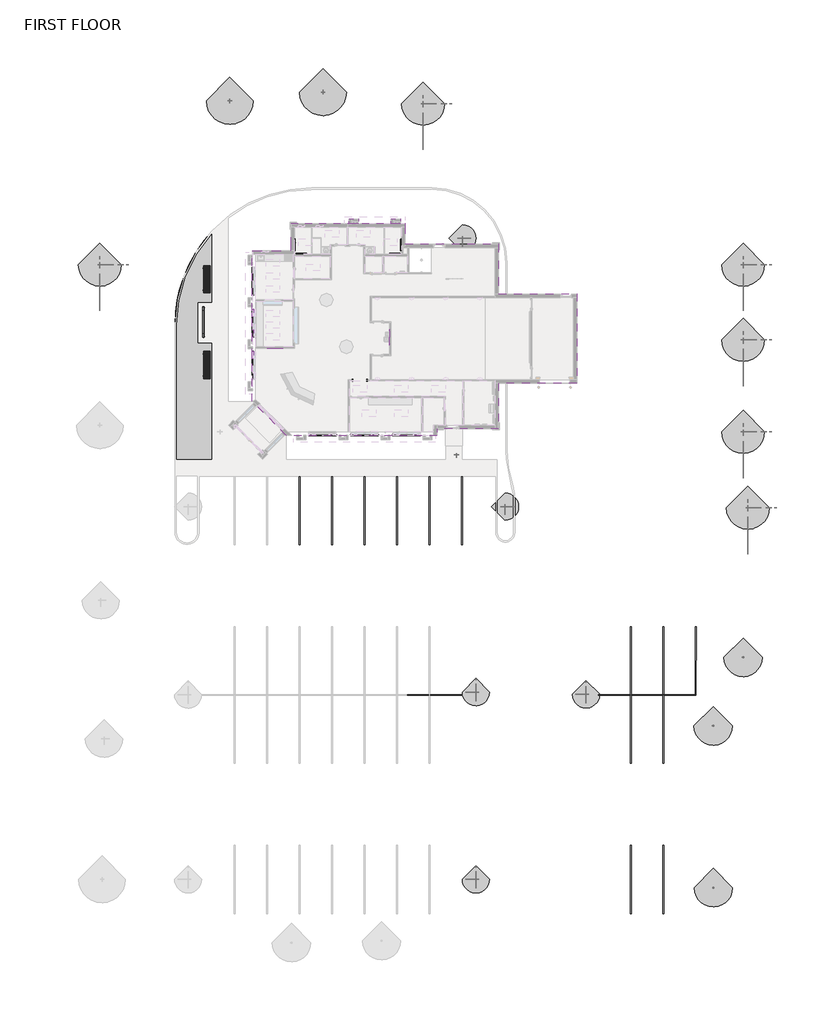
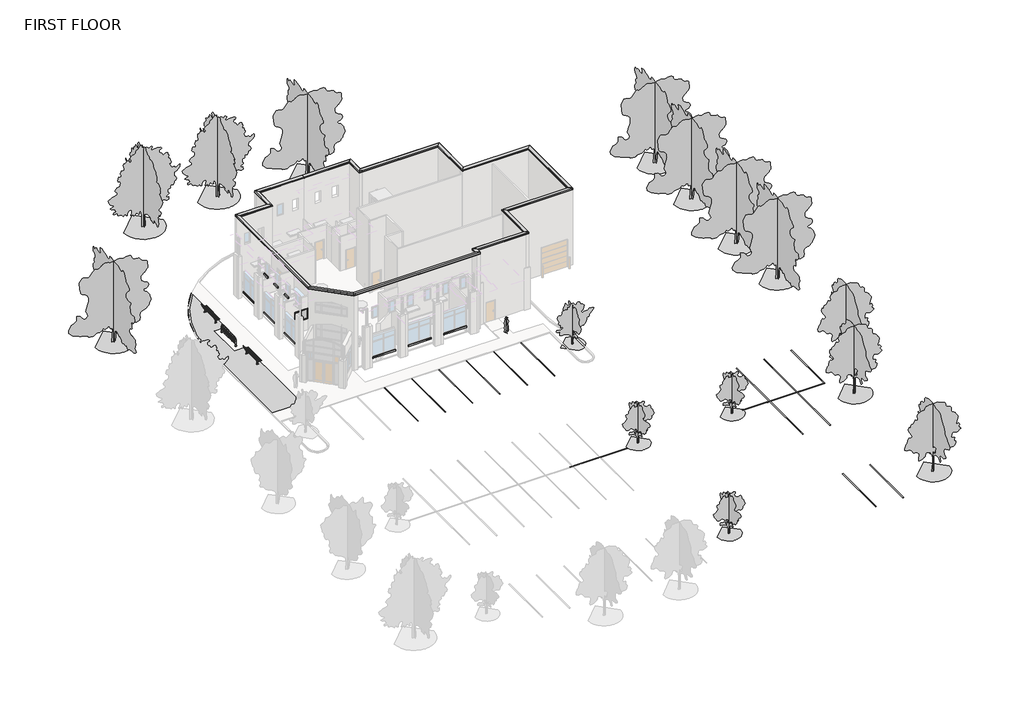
# One storey, part 7 of 7: 35 geographic elements, 19 proxies.
"""IFC4 building model written with IfcOpenShell, lengths in millimetres."""

from ifc_helpers import new_model, si_unit, origin, place, context, project, spatial, faceted_brep, triangles, transform, mapped, element, save
from components import generic_models_46b82326, grab_bar_ada_3_piece_grab_bar_ada_3_piece_215440b3, grab_bar_ada_3_piece_grab_bar_ada_3_piece_27ae340b, proxy_52898018, precast_column_cap7_precast_column_cap_b482682e, precast_column_cap8_precast_column_cap_329b37f6, rpc_female_936a91ee, proxy_52aa913c, proxy_4080196a, geographic_element_50e47716, geographic_element_83f40e2b, geographic_element_ca5cffeb, pavement_stripe_20_9c478066, pavement_stripe_20_eeeff9bc, rpc_tree_deciduous_japanese_cherry_15_e499737d, rpc_tree_deciduous_largetooth_aspen_25_f6cd7aa4, rpc_tree_deciduous_red_maple_30_cba750cc, rpc_tree_deciduous_schumard_oak_30_cf07c7db

model = new_model("IFC4")

# Units and contexts
model_context = context("Model", 3, world=origin())
ifc_project = project(units=[si_unit("LENGTHUNIT", "METRE", prefix="MILLI")], contexts=[model_context])

# Site, building, storey
site = spatial("IfcSite", under=ifc_project)
building = spatial("IfcBuilding", under=site)
storey = spatial("IfcBuildingStorey", under=building, Name="FIRST FLOOR", Elevation=30480.0)

# Proxies
placement = place(None, origin())
element("IfcBuildingElementProxy", 1, Name="Building Element Proxy", at=placement, inside=storey, context=model_context, shape_type="Tessellation", body=[
    triangles([(-20482.0358459, 11922.8001526, 30480.0), (-20482.0358459, -8391.3988449, 30480.0), (-23733.5652832, -8391.3988449, 30480.0), (-23733.1746094, 3634.1546288, 30480.0), (-23678.498877, 4787.2665115, 30480.0), (-23540.9630859, 5790.2802887, 30480.0), (-23354.2907593, 6649.721434, 30480.0), (-23120.651532, 7449.7377182, 30480.0), (-22515.4745178, 8945.1743454, 30480.0), (-21903.5141968, 10057.8244537, 30480.0), (-21459.0552795, 10724.7744415, 30480.0), (-21144.2930969, 11145.5580597, 30480.0), (-20751.3403381, 11622.4998779, 30480.0)], [[4, 6, 5], [4, 1, 7], [4, 7, 6], [8, 7, 1], [4, 3, 2], [10, 9, 1], [1, 4, 2], [9, 8, 1], [12, 11, 1], [1, 13, 12], [11, 10, 1]], closed=False),
])
generic_models_shape = generic_models_46b82326(model_context)
element("IfcBuildingElementProxy", 2, Name="Art_Piece_Van_Gogh_5866 : Art_Piece_Van_Gogh_5866", ObjectType="Art_Piece_Van_Gogh_5866 : Art_Piece_Van_Gogh_5866", at=placement, inside=storey, context=model_context, shape_type="MappedRepresentation", body=[
    mapped(generic_models_shape, transform((-14611.460253, 1582.8635405, 29683.3995774), x_axis=(-1.0, 0.0, 0.0), y_axis=(0.0, -1.0, 0.0), z_axis=(0.0, 0.0, 1.0))),
])
element("IfcBuildingElementProxy", 3, Name="Art_Piece_Van_Gogh_5866 : Art_Piece_Van_Gogh_5866", ObjectType="Art_Piece_Van_Gogh_5866 : Art_Piece_Van_Gogh_5866", at=placement, inside=storey, context=model_context, shape_type="MappedRepresentation", body=[
    mapped(generic_models_shape, transform((-4502.260253, 2298.8260405, 30480.0), x_axis=(0.0, 1.0, 0.0), y_axis=(-1.0, 0.0, 0.0), z_axis=(0.0, 0.0, 1.0))),
])
element("IfcBuildingElementProxy", 4, Name="Coping", ObjectType="Coping", at=placement, inside=storey, context=model_context, shape_type="Brep", body=[
    faceted_brep([(-358.885253, -5654.5489595, 38900.1), (-348.0261135, -5665.408099, 38870.2647593), (-350.5032676, -5662.9309449, 38867.7876052), (-362.060253, -5651.3739595, 38899.5401618), (-362.060253, -5651.3739595, 39051.3127216), (-666.860253, -5346.5739595, 39019.2285111), (-666.860253, -5346.5739595, 38899.5401618), (-677.9108685, -5335.523344, 38869.1788453), (-680.3880226, -5333.0461899, 38871.6559994), (-670.035253, -5343.3989595, 38900.1), (-670.035253, -5343.3989595, 39022.0868421), (-358.885253, -5654.5489595, 39054.8394737), (-358.885253, -6264.1489595, 38900.1), (-358.885253, -6264.1489595, 39054.8394737), (-670.035253, -5952.9989595, 39022.0868421), (-670.035253, -5952.9989595, 38900.1), (-680.3880226, -5942.6461899, 38871.6559994), (-677.9108685, -5945.123344, 38869.1788453), (-666.860253, -5956.1739595, 38899.5401618), (-666.860253, -5956.1739595, 39019.2285111), (-362.060253, -6260.9739595, 39051.3127216), (-362.060253, -6260.9739595, 38899.5401618), (-350.5032676, -6272.5309449, 38867.7876052), (-348.0261135, -6275.008099, 38870.2647593)], [[[0, 1, 2, 3, 4, 5, 6, 7, 8, 9, 10, 11]], [[12, 13, 14, 15, 16, 17, 18, 19, 20, 21, 22, 23]], [[1, 0, 12, 23]], [[2, 1, 23, 22]], [[3, 2, 22, 21]], [[4, 3, 21, 20]], [[5, 4, 20, 19]], [[6, 5, 19, 18]], [[7, 6, 18, 17]], [[8, 7, 17, 16]], [[9, 8, 16, 15]], [[10, 9, 15, 14]], [[11, 10, 14, 13]], [[0, 11, 13, 12]]]),
    faceted_brep([(5127.514747, -5654.5489595, 38900.1), (5138.3738865, -5665.408099, 38870.2647593), (5135.8967324, -5662.9309449, 38867.7876052), (5124.339747, -5651.3739595, 38899.5401618), (5124.339747, -5651.3739595, 39051.3127216), (4819.539747, -5346.5739595, 39019.2285111), (4819.539747, -5346.5739595, 38899.5401618), (4808.4891315, -5335.523344, 38869.1788453), (4806.0119774, -5333.0461899, 38871.6559994), (4816.364747, -5343.3989595, 38900.1), (4816.364747, -5343.3989595, 39022.0868421), (5127.514747, -5654.5489595, 39054.8394737), (-358.885253, -5654.5489595, 38900.1), (-358.885253, -5654.5489595, 39054.8394737), (-670.035253, -5343.3989595, 39022.0868421), (-670.035253, -5343.3989595, 38900.1), (-680.3880226, -5333.0461899, 38871.6559994), (-677.9108685, -5335.523344, 38869.1788453), (-666.860253, -5346.5739595, 38899.5401618), (-666.860253, -5346.5739595, 39019.2285111), (-362.060253, -5651.3739595, 39051.3127216), (-362.060253, -5651.3739595, 38899.5401618), (-350.5032676, -5662.9309449, 38867.7876052), (-348.0261135, -5665.408099, 38870.2647593)], [[[0, 1, 2, 3, 4, 5, 6, 7, 8, 9, 10, 11]], [[12, 13, 14, 15, 16, 17, 18, 19, 20, 21, 22, 23]], [[1, 0, 12, 23]], [[2, 1, 23, 22]], [[3, 2, 22, 21]], [[4, 3, 21, 20]], [[5, 4, 20, 19]], [[6, 5, 19, 18]], [[7, 6, 18, 17]], [[8, 7, 17, 16]], [[9, 8, 16, 15]], [[10, 9, 15, 14]], [[11, 10, 14, 13]], [[0, 11, 13, 12]]]),
    faceted_brep([(5127.514747, -1590.5489595, 38900.1), (5138.3738865, -1601.408099, 38870.2647593), (5135.8967324, -1598.9309449, 38867.7876052), (5124.339747, -1587.3739595, 38899.5401618), (5124.339747, -1587.3739595, 39051.3127216), (4819.539747, -1282.5739595, 39019.2285111), (4819.539747, -1282.5739595, 38899.5401618), (4808.4891315, -1271.523344, 38869.1788453), (4806.0119774, -1269.0461899, 38871.6559994), (4816.364747, -1279.3989595, 38900.1), (4816.364747, -1279.3989595, 39022.0868421), (5127.514747, -1590.5489595, 39054.8394737), (5127.514747, -5654.5489595, 38900.1), (5127.514747, -5654.5489595, 39054.8394737), (4816.364747, -5343.3989595, 39022.0868421), (4816.364747, -5343.3989595, 38900.1), (4806.0119774, -5333.0461899, 38871.6559994), (4808.4891315, -5335.523344, 38869.1788453), (4819.539747, -5346.5739595, 38899.5401618), (4819.539747, -5346.5739595, 39019.2285111), (5124.339747, -5651.3739595, 39051.3127216), (5124.339747, -5651.3739595, 38899.5401618), (5135.8967324, -5662.9309449, 38867.7876052), (5138.3738865, -5665.408099, 38870.2647593)], [[[0, 1, 2, 3, 4, 5, 6, 7, 8, 9, 10, 11]], [[12, 13, 14, 15, 16, 17, 18, 19, 20, 21, 22, 23]], [[1, 0, 12, 23]], [[2, 1, 23, 22]], [[3, 2, 22, 21]], [[4, 3, 21, 20]], [[5, 4, 20, 19]], [[6, 5, 19, 18]], [[7, 6, 18, 17]], [[8, 7, 17, 16]], [[9, 8, 16, 15]], [[10, 9, 15, 14]], [[11, 10, 14, 13]], [[0, 11, 13, 12]]]),
    faceted_brep([(12137.914747, -1590.5489595, 38900.1), (12148.7738865, -1601.408099, 38870.2647593), (12146.2967324, -1598.9309449, 38867.7876052), (12134.739747, -1587.3739595, 38899.5401618), (12134.739747, -1587.3739595, 39051.3127216), (11829.939747, -1282.5739595, 39019.2285111), (11829.939747, -1282.5739595, 38899.5401618), (11818.8891315, -1271.523344, 38869.1788453), (11816.4119774, -1269.0461899, 38871.6559994), (11826.764747, -1279.3989595, 38900.1), (11826.764747, -1279.3989595, 39022.0868421), (12137.914747, -1590.5489595, 39054.8394737), (5127.514747, -1590.5489595, 38900.1), (5127.514747, -1590.5489595, 39054.8394737), (4816.364747, -1279.3989595, 39022.0868421), (4816.364747, -1279.3989595, 38900.1), (4806.0119774, -1269.0461899, 38871.6559994), (4808.4891315, -1271.523344, 38869.1788453), (4819.539747, -1282.5739595, 38899.5401618), (4819.539747, -1282.5739595, 39019.2285111), (5124.339747, -1587.3739595, 39051.3127216), (5124.339747, -1587.3739595, 38899.5401618), (5135.8967324, -1598.9309449, 38867.7876052), (5138.3738865, -1601.408099, 38870.2647593)], [[[0, 1, 2, 3, 4, 5, 6, 7, 8, 9, 10, 11]], [[12, 13, 14, 15, 16, 17, 18, 19, 20, 21, 22, 23]], [[1, 0, 12, 23]], [[2, 1, 23, 22]], [[3, 2, 22, 21]], [[4, 3, 21, 20]], [[5, 4, 20, 19]], [[6, 5, 19, 18]], [[7, 6, 18, 17]], [[8, 7, 17, 16]], [[9, 8, 16, 15]], [[10, 9, 15, 14]], [[11, 10, 14, 13]], [[0, 11, 13, 12]]]),
    faceted_brep([(12137.914747, 6346.9510405, 38900.1), (12148.7738865, 6357.8101801, 38870.2647593), (12146.2967324, 6355.333026, 38867.7876052), (12134.739747, 6343.7760405, 38899.5401618), (12134.739747, 6343.7760405, 39051.3127216), (11829.939747, 6038.9760405, 39019.2285111), (11829.939747, 6038.9760405, 38899.5401618), (11818.8891315, 6027.9254251, 38869.1788453), (11816.4119774, 6025.448271, 38871.6559994), (11826.764747, 6035.8010405, 38900.1), (11826.764747, 6035.8010405, 39022.0868421), (12137.914747, 6346.9510405, 39054.8394737), (12137.914747, -1590.5489595, 38900.1), (12137.914747, -1590.5489595, 39054.8394737), (11826.764747, -1279.3989595, 39022.0868421), (11826.764747, -1279.3989595, 38900.1), (11816.4119774, -1269.0461899, 38871.6559994), (11818.8891315, -1271.523344, 38869.1788453), (11829.939747, -1282.5739595, 38899.5401618), (11829.939747, -1282.5739595, 39019.2285111), (12134.739747, -1587.3739595, 39051.3127216), (12134.739747, -1587.3739595, 38899.5401618), (12146.2967324, -1598.9309449, 38867.7876052), (12148.7738865, -1601.408099, 38870.2647593)], [[[0, 1, 2, 3, 4, 5, 6, 7, 8, 9, 10, 11]], [[12, 13, 14, 15, 16, 17, 18, 19, 20, 21, 22, 23]], [[1, 0, 12, 23]], [[2, 1, 23, 22]], [[3, 2, 22, 21]], [[4, 3, 21, 20]], [[5, 4, 20, 19]], [[6, 5, 19, 18]], [[7, 6, 18, 17]], [[8, 7, 17, 16]], [[9, 8, 16, 15]], [[10, 9, 15, 14]], [[11, 10, 14, 13]], [[0, 11, 13, 12]]]),
    faceted_brep([(-13779.0655091, -6264.1489595, 38900.1), (-13783.563512, -6275.008099, 38870.2647593), (-13782.5374412, -6272.5309449, 38867.7876052), (-13777.7503811, -6260.9739595, 38899.5401618), (-13777.7503811, -6260.9739595, 39051.3127216), (-13651.4980873, -5956.1739595, 39019.2285111), (-13651.4980873, -5956.1739595, 38899.5401618), (-13646.9207725, -5945.123344, 38869.1788453), (-13645.8947017, -5942.6461899, 38871.6559994), (-13650.1829592, -5952.9989595, 38900.1), (-13650.1829592, -5952.9989595, 39022.0868421), (-13779.0655091, -6264.1489595, 39054.8394737), (-16830.785253, -3212.4292156, 38900.1), (-16830.785253, -3212.4292156, 39054.8394737), (-16519.635253, -3083.5466657, 39022.0868421), (-16519.635253, -3083.5466657, 38900.1), (-16509.2824835, -3079.2584081, 38871.6559994), (-16511.7596375, -3080.2844789, 38869.1788453), (-16522.810253, -3084.8617937, 38899.5401618), (-16522.810253, -3084.8617937, 39019.2285111), (-16827.610253, -3211.1140875, 39051.3127216), (-16827.610253, -3211.1140875, 38899.5401618), (-16839.1672385, -3215.9011477, 38867.7876052), (-16841.6443926, -3216.9272185, 38870.2647593)], [[[0, 1, 2, 3, 4, 5, 6, 7, 8, 9, 10, 11]], [[12, 13, 14, 15, 16, 17, 18, 19, 20, 21, 22, 23]], [[1, 0, 12, 23]], [[2, 1, 23, 22]], [[3, 2, 22, 21]], [[4, 3, 21, 20]], [[5, 4, 20, 19]], [[6, 5, 19, 18]], [[7, 6, 18, 17]], [[8, 7, 17, 16]], [[9, 8, 16, 15]], [[10, 9, 15, 14]], [[11, 10, 14, 13]], [[0, 11, 13, 12]]]),
    faceted_brep([(-16830.785253, -3212.4292156, 38900.1), (-16841.6443926, -3216.9272185, 38870.2647593), (-16839.1672385, -3215.9011477, 38867.7876052), (-16827.610253, -3211.1140875, 38899.5401618), (-16827.610253, -3211.1140875, 39051.3127216), (-16522.810253, -3084.8617937, 39019.2285111), (-16522.810253, -3084.8617937, 38899.5401618), (-16511.7596375, -3080.2844789, 38869.1788453), (-16509.2824835, -3079.2584081, 38871.6559994), (-16519.635253, -3083.5466657, 38900.1), (-16519.635253, -3083.5466657, 39022.0868421), (-16830.785253, -3212.4292156, 39054.8394737), (-16830.785253, 10207.7510405, 38900.1), (-16830.785253, 10207.7510405, 39054.8394737), (-16519.635253, 9896.6010405, 39022.0868421), (-16519.635253, 9896.6010405, 38900.1), (-16509.2824835, 9886.248271, 38871.6559994), (-16511.7596375, 9888.7254251, 38869.1788453), (-16522.810253, 9899.7760405, 38899.5401618), (-16522.810253, 9899.7760405, 39019.2285111), (-16827.610253, 10204.5760405, 39051.3127216), (-16827.610253, 10204.5760405, 38899.5401618), (-16839.1672385, 10216.133026, 38867.7876052), (-16841.6443926, 10218.6101801, 38870.2647593)], [[[0, 1, 2, 3, 4, 5, 6, 7, 8, 9, 10, 11]], [[12, 13, 14, 15, 16, 17, 18, 19, 20, 21, 22, 23]], [[1, 0, 12, 23]], [[2, 1, 23, 22]], [[3, 2, 22, 21]], [[4, 3, 21, 20]], [[5, 4, 20, 19]], [[6, 5, 19, 18]], [[7, 6, 18, 17]], [[8, 7, 17, 16]], [[9, 8, 16, 15]], [[10, 9, 15, 14]], [[11, 10, 14, 13]], [[0, 11, 13, 12]]]),
    faceted_brep([(-16830.785253, 10207.7510405, 38900.1), (-16841.6443926, 10218.6101801, 38870.2647593), (-16839.1672385, 10216.133026, 38867.7876052), (-16827.610253, 10204.5760405, 38899.5401618), (-16827.610253, 10204.5760405, 39051.3127216), (-16522.810253, 9899.7760405, 39019.2285111), (-16522.810253, 9899.7760405, 38899.5401618), (-16511.7596375, 9888.7254251, 38869.1788453), (-16509.2824835, 9886.248271, 38871.6559994), (-16519.635253, 9896.6010405, 38900.1), (-16519.635253, 9896.6010405, 39022.0868421), (-16830.785253, 10207.7510405, 39054.8394737), (-13376.385253, 10207.7510405, 38900.1), (-13376.385253, 10207.7510405, 39054.8394737), (-13065.235253, 9896.6010405, 39022.0868421), (-13065.235253, 9896.6010405, 38900.1), (-13054.8824835, 9886.248271, 38871.6559994), (-13057.3596375, 9888.7254251, 38869.1788453), (-13068.410253, 9899.7760405, 38899.5401618), (-13068.410253, 9899.7760405, 39019.2285111), (-13373.210253, 10204.5760405, 39051.3127216), (-13373.210253, 10204.5760405, 38899.5401618), (-13384.7672385, 10216.133026, 38867.7876052), (-13387.2443926, 10218.6101801, 38870.2647593)], [[[0, 1, 2, 3, 4, 5, 6, 7, 8, 9, 10, 11]], [[12, 13, 14, 15, 16, 17, 18, 19, 20, 21, 22, 23]], [[1, 0, 12, 23]], [[2, 1, 23, 22]], [[3, 2, 22, 21]], [[4, 3, 21, 20]], [[5, 4, 20, 19]], [[6, 5, 19, 18]], [[7, 6, 18, 17]], [[8, 7, 17, 16]], [[9, 8, 16, 15]], [[10, 9, 15, 14]], [[11, 10, 14, 13]], [[0, 11, 13, 12]]]),
    faceted_brep([(-13376.385253, 10207.7510405, 38900.1), (-13387.2443926, 10218.6101801, 38870.2647593), (-13384.7672385, 10216.133026, 38867.7876052), (-13373.210253, 10204.5760405, 38899.5401618), (-13373.210253, 10204.5760405, 39051.3127216), (-13068.410253, 9899.7760405, 39019.2285111), (-13068.410253, 9899.7760405, 38899.5401618), (-13057.3596375, 9888.7254251, 38869.1788453), (-13054.8824835, 9886.248271, 38871.6559994), (-13065.235253, 9896.6010405, 38900.1), (-13065.235253, 9896.6010405, 39022.0868421), (-13376.385253, 10207.7510405, 39054.8394737), (-13376.385253, 12646.1510405, 38900.1), (-13376.385253, 12646.1510405, 39054.8394737), (-13065.235253, 12335.0010405, 39022.0868421), (-13065.235253, 12335.0010405, 38900.1), (-13054.8824835, 12324.648271, 38871.6559994), (-13057.3596375, 12327.1254251, 38869.1788453), (-13068.410253, 12338.1760405, 38899.5401618), (-13068.410253, 12338.1760405, 39019.2285111), (-13373.210253, 12642.9760405, 39051.3127216), (-13373.210253, 12642.9760405, 38899.5401618), (-13384.7672385, 12654.533026, 38867.7876052), (-13387.2443926, 12657.0101801, 38870.2647593)], [[[0, 1, 2, 3, 4, 5, 6, 7, 8, 9, 10, 11]], [[12, 13, 14, 15, 16, 17, 18, 19, 20, 21, 22, 23]], [[1, 0, 12, 23]], [[2, 1, 23, 22]], [[3, 2, 22, 21]], [[4, 3, 21, 20]], [[5, 4, 20, 19]], [[6, 5, 19, 18]], [[7, 6, 18, 17]], [[8, 7, 17, 16]], [[9, 8, 16, 15]], [[10, 9, 15, 14]], [[11, 10, 14, 13]], [[0, 11, 13, 12]]]),
    faceted_brep([(-13376.385253, 12646.1510405, 38900.1), (-13387.2443926, 12657.0101801, 38870.2647593), (-13384.7672385, 12654.533026, 38867.7876052), (-13373.210253, 12642.9760405, 38899.5401618), (-13373.210253, 12642.9760405, 39051.3127216), (-13068.410253, 12338.1760405, 39019.2285111), (-13068.410253, 12338.1760405, 38899.5401618), (-13057.3596375, 12327.1254251, 38869.1788453), (-13054.8824835, 12324.648271, 38871.6559994), (-13065.235253, 12335.0010405, 38900.1), (-13065.235253, 12335.0010405, 39022.0868421), (-13376.385253, 12646.1510405, 39054.8394737), (-8332.897753, 12646.1510405, 38900.1), (-8332.897753, 12646.1510405, 39054.8394737), (-8332.897753, 12335.0010405, 39022.0868421), (-8332.897753, 12335.0010405, 38900.1), (-8332.897753, 12324.648271, 38871.6559994), (-8332.897753, 12327.1254251, 38869.1788453), (-8332.897753, 12338.1760405, 38899.5401618), (-8332.897753, 12338.1760405, 39019.2285111), (-8332.897753, 12642.9760405, 39051.3127216), (-8332.897753, 12642.9760405, 38899.5401618), (-8332.897753, 12654.533026, 38867.7876052), (-8332.897753, 12657.0101801, 38870.2647593)], [[[0, 1, 2, 3, 4, 5, 6, 7, 8, 9, 10, 11]], [[12, 13, 14, 15, 16, 17, 18, 19, 20, 21, 22, 23]], [[1, 0, 12, 23]], [[2, 1, 23, 22]], [[3, 2, 22, 21]], [[4, 3, 21, 20]], [[5, 4, 20, 19]], [[6, 5, 19, 18]], [[7, 6, 18, 17]], [[8, 7, 17, 16]], [[9, 8, 16, 15]], [[10, 9, 15, 14]], [[11, 10, 14, 13]], [[0, 11, 13, 12]]]),
    faceted_brep([(-8332.897753, 12646.1510405, 38900.1), (-8332.897753, 12657.0101801, 38870.2647593), (-8332.897753, 12654.533026, 38867.7876052), (-8332.897753, 12642.9760405, 38899.5401618), (-8332.897753, 12642.9760405, 39051.3127216), (-8332.897753, 12338.1760405, 39019.2285111), (-8332.897753, 12338.1760405, 38899.5401618), (-8332.897753, 12327.1254251, 38869.1788453), (-8332.897753, 12324.648271, 38871.6559994), (-8332.897753, 12335.0010405, 38900.1), (-8332.897753, 12335.0010405, 39022.0868421), (-8332.897753, 12646.1510405, 39054.8394737), (-3203.685253, 12646.1510405, 38900.1), (-3203.685253, 12646.1510405, 39054.8394737), (-3514.835253, 12335.0010405, 39022.0868421), (-3514.835253, 12335.0010405, 38900.1), (-3525.1880226, 12324.648271, 38871.6559994), (-3522.7108685, 12327.1254251, 38869.1788453), (-3511.660253, 12338.1760405, 38899.5401618), (-3511.660253, 12338.1760405, 39019.2285111), (-3206.860253, 12642.9760405, 39051.3127216), (-3206.860253, 12642.9760405, 38899.5401618), (-3195.3032676, 12654.533026, 38867.7876052), (-3192.8261135, 12657.0101801, 38870.2647593)], [[[0, 1, 2, 3, 4, 5, 6, 7, 8, 9, 10, 11]], [[12, 13, 14, 15, 16, 17, 18, 19, 20, 21, 22, 23]], [[1, 0, 12, 23]], [[2, 1, 23, 22]], [[3, 2, 22, 21]], [[4, 3, 21, 20]], [[5, 4, 20, 19]], [[6, 5, 19, 18]], [[7, 6, 18, 17]], [[8, 7, 17, 16]], [[9, 8, 16, 15]], [[10, 9, 15, 14]], [[11, 10, 14, 13]], [[0, 11, 13, 12]]]),
    faceted_brep([(-3203.685253, 10817.3510405, 38900.1), (-3203.685253, 10817.3510405, 39054.8394737), (-3514.835253, 10506.2010405, 39022.0868421), (-3514.835253, 10506.2010405, 38900.1), (-3525.1880226, 10495.848271, 38871.6559994), (-3522.7108685, 10498.3254251, 38869.1788453), (-3511.660253, 10509.3760405, 38899.5401618), (-3511.660253, 10509.3760405, 39019.2285111), (-3206.860253, 10814.1760405, 39051.3127216), (-3206.860253, 10814.1760405, 38899.5401618), (-3195.3032676, 10825.733026, 38867.7876052), (-3192.8261135, 10828.2101801, 38870.2647593), (-3203.685253, 12646.1510405, 38900.1), (-3192.8261135, 12657.0101801, 38870.2647593), (-3195.3032676, 12654.533026, 38867.7876052), (-3206.860253, 12642.9760405, 38899.5401618), (-3206.860253, 12642.9760405, 39051.3127216), (-3511.660253, 12338.1760405, 39019.2285111), (-3511.660253, 12338.1760405, 38899.5401618), (-3522.7108685, 12327.1254251, 38869.1788453), (-3525.1880226, 12324.648271, 38871.6559994), (-3514.835253, 12335.0010405, 38900.1), (-3514.835253, 12335.0010405, 39022.0868421), (-3203.685253, 12646.1510405, 39054.8394737)], [[[0, 1, 2, 3, 4, 5, 6, 7, 8, 9, 10, 11]], [[12, 13, 14, 15, 16, 17, 18, 19, 20, 21, 22, 23]], [[1, 0, 12, 23]], [[2, 1, 23, 22]], [[3, 2, 22, 21]], [[4, 3, 21, 20]], [[5, 4, 20, 19]], [[6, 5, 19, 18]], [[7, 6, 18, 17]], [[8, 7, 17, 16]], [[9, 8, 16, 15]], [[10, 9, 15, 14]], [[11, 10, 14, 13]], [[0, 11, 13, 12]]]),
    faceted_brep([(-3203.685253, 10817.3510405, 38900.1), (-3192.8261135, 10828.2101801, 38870.2647593), (-3195.3032676, 10825.733026, 38867.7876052), (-3206.860253, 10814.1760405, 38899.5401618), (-3206.860253, 10814.1760405, 39051.3127216), (-3511.660253, 10509.3760405, 39019.2285111), (-3511.660253, 10509.3760405, 38899.5401618), (-3522.7108685, 10498.3254251, 38869.1788453), (-3525.1880226, 10495.848271, 38871.6559994), (-3514.835253, 10506.2010405, 38900.1), (-3514.835253, 10506.2010405, 39022.0868421), (-3203.685253, 10817.3510405, 39054.8394737), (5127.514747, 10817.3510405, 38900.1), (5127.514747, 10817.3510405, 39054.8394737), (4816.364747, 10506.2010405, 39022.0868421), (4816.364747, 10506.2010405, 38900.1), (4806.0119774, 10495.848271, 38871.6559994), (4808.4891315, 10498.3254251, 38869.1788453), (4819.539747, 10509.3760405, 38899.5401618), (4819.539747, 10509.3760405, 39019.2285111), (5124.339747, 10814.1760405, 39051.3127216), (5124.339747, 10814.1760405, 38899.5401618), (5135.8967324, 10825.733026, 38867.7876052), (5138.3738865, 10828.2101801, 38870.2647593)], [[[0, 1, 2, 3, 4, 5, 6, 7, 8, 9, 10, 11]], [[12, 13, 14, 15, 16, 17, 18, 19, 20, 21, 22, 23]], [[1, 0, 12, 23]], [[2, 1, 23, 22]], [[3, 2, 22, 21]], [[4, 3, 21, 20]], [[5, 4, 20, 19]], [[6, 5, 19, 18]], [[7, 6, 18, 17]], [[8, 7, 17, 16]], [[9, 8, 16, 15]], [[10, 9, 15, 14]], [[11, 10, 14, 13]], [[0, 11, 13, 12]]]),
    faceted_brep([(5127.514747, 10817.3510405, 38900.1), (5138.3738865, 10828.2101801, 38870.2647593), (5135.8967324, 10825.733026, 38867.7876052), (5124.339747, 10814.1760405, 38899.5401618), (5124.339747, 10814.1760405, 39051.3127216), (4819.539747, 10509.3760405, 39019.2285111), (4819.539747, 10509.3760405, 38899.5401618), (4808.4891315, 10498.3254251, 38869.1788453), (4806.0119774, 10495.848271, 38871.6559994), (4816.364747, 10506.2010405, 38900.1), (4816.364747, 10506.2010405, 39022.0868421), (5127.514747, 10817.3510405, 39054.8394737), (5127.514747, 6346.9510405, 38900.1), (5127.514747, 6346.9510405, 39054.8394737), (4816.364747, 6035.8010405, 39022.0868421), (4816.364747, 6035.8010405, 38900.1), (4806.0119774, 6025.448271, 38871.6559994), (4808.4891315, 6027.9254251, 38869.1788453), (4819.539747, 6038.9760405, 38899.5401618), (4819.539747, 6038.9760405, 39019.2285111), (5124.339747, 6343.7760405, 39051.3127216), (5124.339747, 6343.7760405, 38899.5401618), (5135.8967324, 6355.333026, 38867.7876052), (5138.3738865, 6357.8101801, 38870.2647593)], [[[0, 1, 2, 3, 4, 5, 6, 7, 8, 9, 10, 11]], [[12, 13, 14, 15, 16, 17, 18, 19, 20, 21, 22, 23]], [[1, 0, 12, 23]], [[2, 1, 23, 22]], [[3, 2, 22, 21]], [[4, 3, 21, 20]], [[5, 4, 20, 19]], [[6, 5, 19, 18]], [[7, 6, 18, 17]], [[8, 7, 17, 16]], [[9, 8, 16, 15]], [[10, 9, 15, 14]], [[11, 10, 14, 13]], [[0, 11, 13, 12]]]),
    faceted_brep([(5127.514747, 6346.9510405, 38900.1), (5138.3738865, 6357.8101801, 38870.2647593), (5135.8967324, 6355.333026, 38867.7876052), (5124.339747, 6343.7760405, 38899.5401618), (5124.339747, 6343.7760405, 39051.3127216), (4819.539747, 6038.9760405, 39019.2285111), (4819.539747, 6038.9760405, 38899.5401618), (4808.4891315, 6027.9254251, 38869.1788453), (4806.0119774, 6025.448271, 38871.6559994), (4816.364747, 6035.8010405, 38900.1), (4816.364747, 6035.8010405, 39022.0868421), (5127.514747, 6346.9510405, 39054.8394737), (12137.914747, 6346.9510405, 38900.1), (12137.914747, 6346.9510405, 39054.8394737), (11826.764747, 6035.8010405, 39022.0868421), (11826.764747, 6035.8010405, 38900.1), (11816.4119774, 6025.448271, 38871.6559994), (11818.8891315, 6027.9254251, 38869.1788453), (11829.939747, 6038.9760405, 38899.5401618), (11829.939747, 6038.9760405, 39019.2285111), (12134.739747, 6343.7760405, 39051.3127216), (12134.739747, 6343.7760405, 38899.5401618), (12146.2967324, 6355.333026, 38867.7876052), (12148.7738865, 6357.8101801, 38870.2647593)], [[[0, 1, 2, 3, 4, 5, 6, 7, 8, 9, 10, 11]], [[12, 13, 14, 15, 16, 17, 18, 19, 20, 21, 22, 23]], [[1, 0, 12, 23]], [[2, 1, 23, 22]], [[3, 2, 22, 21]], [[4, 3, 21, 20]], [[5, 4, 20, 19]], [[6, 5, 19, 18]], [[7, 6, 18, 17]], [[8, 7, 17, 16]], [[9, 8, 16, 15]], [[10, 9, 15, 14]], [[11, 10, 14, 13]], [[0, 11, 13, 12]]]),
    faceted_brep([(-13779.0655091, -6264.1489595, 38900.1), (-13779.0655091, -6264.1489595, 39054.8394737), (-13650.1829592, -5952.9989595, 39022.0868421), (-13650.1829592, -5952.9989595, 38900.1), (-13645.8947017, -5942.6461899, 38871.6559994), (-13646.9207725, -5945.123344, 38869.1788453), (-13651.4980873, -5956.1739595, 38899.5401618), (-13651.4980873, -5956.1739595, 39019.2285111), (-13777.7503811, -6260.9739595, 39051.3127216), (-13777.7503811, -6260.9739595, 38899.5401618), (-13782.5374412, -6272.5309449, 38867.7876052), (-13783.563512, -6275.008099, 38870.2647593), (-358.885253, -6264.1489595, 38900.1), (-348.0261135, -6275.008099, 38870.2647593), (-350.5032676, -6272.5309449, 38867.7876052), (-362.060253, -6260.9739595, 38899.5401618), (-362.060253, -6260.9739595, 39051.3127216), (-666.860253, -5956.1739595, 39019.2285111), (-666.860253, -5956.1739595, 38899.5401618), (-677.9108685, -5945.123344, 38869.1788453), (-680.3880226, -5942.6461899, 38871.6559994), (-670.035253, -5952.9989595, 38900.1), (-670.035253, -5952.9989595, 39022.0868421), (-358.885253, -6264.1489595, 39054.8394737)], [[[0, 1, 2, 3, 4, 5, 6, 7, 8, 9, 10, 11]], [[12, 13, 14, 15, 16, 17, 18, 19, 20, 21, 22, 23]], [[1, 0, 12, 23]], [[2, 1, 23, 22]], [[3, 2, 22, 21]], [[4, 3, 21, 20]], [[5, 4, 20, 19]], [[6, 5, 19, 18]], [[7, 6, 18, 17]], [[8, 7, 17, 16]], [[9, 8, 16, 15]], [[10, 9, 15, 14]], [[11, 10, 14, 13]], [[0, 11, 13, 12]]]),
])
grab_bar_ada_3_piece_grab_bar_ada_3_piece_shape = grab_bar_ada_3_piece_grab_bar_ada_3_piece_215440b3(model_context)
element("IfcBuildingElementProxy", 5, Name="Grab Bar ADA - 3 Piece : Grab Bar ADA - 3 Piece", ObjectType="Grab Bar ADA - 3 Piece : Grab Bar ADA - 3 Piece", at=placement, inside=storey, context=model_context, shape_type="MappedRepresentation", body=[
    mapped(grab_bar_ada_3_piece_grab_bar_ada_3_piece_shape, transform((-13065.235253, 9820.4010405, 30480.0), x_axis=(1.0, 0.0, 0.0), y_axis=(0.0, 1.0, 0.0), z_axis=(0.0, 0.0, 1.0))),
])
grab_bar_ada_3_piece_grab_bar_ada_3_piece_2_shape = grab_bar_ada_3_piece_grab_bar_ada_3_piece_27ae340b(model_context)
element("IfcBuildingElementProxy", 6, Name="Grab Bar ADA - 3 Piece : Grab Bar ADA - 3 Piece", ObjectType="Grab Bar ADA - 3 Piece : Grab Bar ADA - 3 Piece", at=placement, inside=storey, context=model_context, shape_type="MappedRepresentation", body=[
    mapped(grab_bar_ada_3_piece_grab_bar_ada_3_piece_2_shape, transform((-3511.5770356, 9820.4010405, 30480.0), x_axis=(-1.0, 0.0, 0.0), y_axis=(0.0, -1.0, 0.0), z_axis=(0.0, 0.0, 1.0))),
])
proxy_shape = proxy_52898018(model_context)
element("IfcBuildingElementProxy", 7, Name="Opening-Cased : 48\" x 84\"", ObjectType="Opening-Cased : 48\" x 84\"", at=placement, inside=storey, context=model_context, shape_type="MappedRepresentation", body=[
    mapped(proxy_shape, transform((-7222.9840963, -1341.3114595, 30480.0), x_axis=(1.0, 0.0, 0.0), y_axis=(0.0, 1.0, 0.0), z_axis=(0.0, 0.0, 1.0))),
])
precast_column_cap7_precast_column_cap_shape = precast_column_cap7_precast_column_cap_b482682e(model_context)
element("IfcBuildingElementProxy", 8, Name="Precast Column Cap7 : Precast Column Cap", ObjectType="Precast Column Cap7 : Precast Column Cap", at=placement, inside=storey, context=model_context, shape_type="MappedRepresentation", body=[
    mapped(precast_column_cap7_precast_column_cap_shape, transform((0.0, 0.0, 0.0), x_axis=(1.0, 0.0, 0.0), y_axis=(0.0, 1.0, 0.0), z_axis=(0.0, 0.0, 1.0))),
])
precast_column_cap8_precast_column_cap_shape = precast_column_cap8_precast_column_cap_329b37f6(model_context)
element("IfcBuildingElementProxy", 9, Name="Precast Column Cap8 : Precast Column Cap", ObjectType="Precast Column Cap8 : Precast Column Cap", at=placement, inside=storey, context=model_context, shape_type="MappedRepresentation", body=[
    mapped(precast_column_cap8_precast_column_cap_shape, transform((-25526.4064361, 11665.2020811, 0.0), x_axis=(-1.0, 0.0, 0.0), y_axis=(0.0, -1.0, 0.0), z_axis=(0.0, 0.0, 1.0))),
])
rpc_female_shape = rpc_female_936a91ee(model_context)
element("IfcBuildingElementProxy", 10, Name="RPC Female : Tina", ObjectType="RPC Female : Tina", at=placement, inside=storey, context=model_context, shape_type="MappedRepresentation", body=[
    mapped(rpc_female_shape, transform((1375.2585299, -8035.7989595, 30480.0), x_axis=(1.0, 0.0, 0.0), y_axis=(0.0, 1.0, 0.0), z_axis=(0.0, 0.0, 1.0))),
])
proxy_2_shape = proxy_52aa913c(model_context)
element("IfcBuildingElementProxy", 11, Name="Stone Sill : 2' x 8\" x 3 5/8\" Deep", ObjectType="Stone Sill : 2' x 8\" x 3 5/8\" Deep", at=placement, inside=storey, context=model_context, shape_type="MappedRepresentation", body=[
    mapped(proxy_2_shape, transform((-16673.80834, 4049.9858005, 33419.5320312), x_axis=(0.0, 1.0, 0.0), y_axis=(-1.0, 0.0, 0.0), z_axis=(0.0, 0.0, 1.0))),
])
element("IfcBuildingElementProxy", 12, Name="Stone Sill : 2' x 8\" x 3 5/8\" Deep", ObjectType="Stone Sill : 2' x 8\" x 3 5/8\" Deep", at=placement, inside=storey, context=model_context, shape_type="MappedRepresentation", body=[
    mapped(proxy_2_shape, transform((-16673.80834, 2221.1858005, 33419.5320312), x_axis=(0.0, 1.0, 0.0), y_axis=(-1.0, 0.0, 0.0), z_axis=(0.0, 0.0, 1.0))),
])
element("IfcBuildingElementProxy", 13, Name="Stone Sill : 2' x 8\" x 3 5/8\" Deep", ObjectType="Stone Sill : 2' x 8\" x 3 5/8\" Deep", at=placement, inside=storey, context=model_context, shape_type="MappedRepresentation", body=[
    mapped(proxy_2_shape, transform((-16673.80834, 290.7959605, 33419.5320312), x_axis=(0.0, 1.0, 0.0), y_axis=(-1.0, 0.0, 0.0), z_axis=(0.0, 0.0, 1.0))),
])
proxy_3_shape = proxy_4080196a(model_context)
element("IfcBuildingElementProxy", 14, Name="Stone Sill : 4' x 8\" x 3 5/8\" Deep", ObjectType="Stone Sill : 4' x 8\" x 3 5/8\" Deep", at=placement, inside=storey, context=model_context, shape_type="MappedRepresentation", body=[
    mapped(proxy_3_shape, transform((-16673.80834, 3135.5908805, 29101.5320313), x_axis=(0.0, 1.0, 0.0), y_axis=(-1.0, 0.0, 0.0), z_axis=(0.0, 0.0, 1.0))),
])
element("IfcBuildingElementProxy", 15, Name="Stone Sill : 4' x 8\" x 3 5/8\" Deep", ObjectType="Stone Sill : 4' x 8\" x 3 5/8\" Deep", at=placement, inside=storey, context=model_context, shape_type="MappedRepresentation", body=[
    mapped(proxy_3_shape, transform((-16673.80834, -623.5989595, 29101.5320313), x_axis=(0.0, 1.0, 0.0), y_axis=(-1.0, 0.0, 0.0), z_axis=(0.0, 0.0, 1.0))),
])
element("IfcBuildingElementProxy", 16, Name="Stone Sill : 4' x 8\" x 3 5/8\" Deep", ObjectType="Stone Sill : 4' x 8\" x 3 5/8\" Deep", at=placement, inside=storey, context=model_context, shape_type="MappedRepresentation", body=[
    mapped(proxy_3_shape, transform((-16673.80834, 6894.7807205, 29101.5320313), x_axis=(0.0, 1.0, 0.0), y_axis=(-1.0, 0.0, 0.0), z_axis=(0.0, 0.0, 1.0))),
])
element("IfcBuildingElementProxy", 17, Name="Stone Sill : 4' x 8\" x 3 5/8\" Deep", ObjectType="Stone Sill : 4' x 8\" x 3 5/8\" Deep", at=placement, inside=storey, context=model_context, shape_type="MappedRepresentation", body=[
    mapped(proxy_3_shape, transform((-9961.835253, -6107.1720464, 29100.7382813), x_axis=(-1.0, 0.0, 0.0), y_axis=(0.0, -1.0, 0.0), z_axis=(0.0, 0.0, 1.0))),
])
element("IfcBuildingElementProxy", 18, Name="Stone Sill : 4' x 8\" x 3 5/8\" Deep", ObjectType="Stone Sill : 4' x 8\" x 3 5/8\" Deep", at=placement, inside=storey, context=model_context, shape_type="MappedRepresentation", body=[
    mapped(proxy_3_shape, transform((-6202.645413, -6107.1720464, 29100.7382813), x_axis=(-1.0, 0.0, 0.0), y_axis=(0.0, -1.0, 0.0), z_axis=(0.0, 0.0, 1.0))),
])
element("IfcBuildingElementProxy", 19, Name="Stone Sill : 4' x 8\" x 3 5/8\" Deep", ObjectType="Stone Sill : 4' x 8\" x 3 5/8\" Deep", at=placement, inside=storey, context=model_context, shape_type="MappedRepresentation", body=[
    mapped(proxy_3_shape, transform((-2443.445413, -6107.1720464, 29100.7382813), x_axis=(-1.0, 0.0, 0.0), y_axis=(0.0, -1.0, 0.0), z_axis=(0.0, 0.0, 1.0))),
])

# Geographic elements
geographic_element_shape = geographic_element_50e47716(model_context)
element("IfcGeographicElement", 20, ObjectType="Bike Stand : 102\"", at=placement, inside=storey, context=model_context, shape_type="MappedRepresentation", body=[
    mapped(geographic_element_shape, transform((-21193.235253, 3367.9902117, 30480.0), x_axis=(0.0, 1.0, 0.0), y_axis=(-1.0, 0.0, 0.0), z_axis=(0.0, 0.0, 1.0))),
])
geographic_element_2_shape = geographic_element_83f40e2b(model_context)
element("IfcGeographicElement", 21, ObjectType="Park Bench : 96\"", at=placement, inside=storey, context=model_context, shape_type="MappedRepresentation", body=[
    mapped(geographic_element_2_shape, transform((-20932.885253, 22.3459605, 30480.0), x_axis=(0.0, 1.0, 0.0), y_axis=(-1.0, 0.0, 0.0), z_axis=(0.0, 0.0, 1.0))),
])
geographic_element_3_shape = geographic_element_ca5cffeb(model_context)
element("IfcGeographicElement", 22, ObjectType="Park Bench : 96\"", at=placement, inside=storey, context=model_context, shape_type="MappedRepresentation", body=[
    mapped(geographic_element_3_shape, transform((-20932.885253, 7680.4154805, 30480.0), x_axis=(0.0, -1.0, 0.0), y_axis=(1.0, 0.0, 0.0), z_axis=(0.0, 0.0, 1.0))),
])
pavement_stripe_20_shape = pavement_stripe_20_9c478066(model_context)
element("IfcGeographicElement", 23, ObjectType="Pavement Stripe : 20'", at=placement, inside=storey, context=model_context, shape_type="MappedRepresentation", body=[
    mapped(pavement_stripe_20_shape, transform((-13873.2269603, -10778.9989595, 30327.6), x_axis=(1.0, 0.0, 0.0), y_axis=(0.0, 1.0, 0.0), z_axis=(0.0, 0.0, 1.0))),
])
element("IfcGeographicElement", 24, ObjectType="Pavement Stripe : 20'", at=placement, inside=storey, context=model_context, shape_type="MappedRepresentation", body=[
    mapped(pavement_stripe_20_shape, transform((-10977.6269597, -10778.9989595, 30327.6), x_axis=(1.0, 0.0, 0.0), y_axis=(0.0, 1.0, 0.0), z_axis=(0.0, 0.0, 1.0))),
])
element("IfcGeographicElement", 25, ObjectType="Pavement Stripe : 20'", at=placement, inside=storey, context=model_context, shape_type="MappedRepresentation", body=[
    mapped(pavement_stripe_20_shape, transform((-8082.026959, -10778.9989595, 30327.6), x_axis=(1.0, 0.0, 0.0), y_axis=(0.0, 1.0, 0.0), z_axis=(0.0, 0.0, 1.0))),
])
element("IfcGeographicElement", 26, ObjectType="Pavement Stripe : 20'", at=placement, inside=storey, context=model_context, shape_type="MappedRepresentation", body=[
    mapped(pavement_stripe_20_shape, transform((-5186.4269584, -10778.9989595, 30327.6), x_axis=(1.0, 0.0, 0.0), y_axis=(0.0, 1.0, 0.0), z_axis=(0.0, 0.0, 1.0))),
])
element("IfcGeographicElement", 27, ObjectType="Pavement Stripe : 20'", at=placement, inside=storey, context=model_context, shape_type="MappedRepresentation", body=[
    mapped(pavement_stripe_20_shape, transform((-2290.8269578, -10778.9989595, 30327.6), x_axis=(1.0, 0.0, 0.0), y_axis=(0.0, 1.0, 0.0), z_axis=(0.0, 0.0, 1.0))),
])
element("IfcGeographicElement", 28, ObjectType="Pavement Stripe : 20'", at=placement, inside=storey, context=model_context, shape_type="MappedRepresentation", body=[
    mapped(pavement_stripe_20_shape, transform((604.7730429, -10778.9989595, 30327.6), x_axis=(1.0, 0.0, 0.0), y_axis=(0.0, 1.0, 0.0), z_axis=(0.0, 0.0, 1.0))),
])
element("IfcGeographicElement", 29, ObjectType="Pavement Stripe : 20'", at=placement, inside=storey, context=model_context, shape_type="MappedRepresentation", body=[
    mapped(pavement_stripe_20_shape, transform((15692.3777862, -30286.1989595, 30327.6), x_axis=(1.0, 0.0, 0.0), y_axis=(0.0, 1.0, 0.0), z_axis=(0.0, 0.0, 1.0))),
])
element("IfcGeographicElement", 30, ObjectType="Pavement Stripe : 20'", at=placement, inside=storey, context=model_context, shape_type="MappedRepresentation", body=[
    mapped(pavement_stripe_20_shape, transform((18587.9730469, -30286.1989595, 30327.6), x_axis=(1.0, 0.0, 0.0), y_axis=(0.0, 1.0, 0.0), z_axis=(0.0, 0.0, 1.0))),
])
pavement_stripe_20_2_shape = pavement_stripe_20_eeeff9bc(model_context)
element("IfcGeographicElement", 31, ObjectType="Pavement Stripe : 20'", at=placement, inside=storey, context=model_context, shape_type="MappedRepresentation", body=[
    mapped(pavement_stripe_20_2_shape, transform((1010.0784404, -30687.3718083, 30327.6), x_axis=(2.099212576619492e-05, 0.9999999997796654, 0.0), y_axis=(-0.9999999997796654, 2.099212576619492e-05, 0.0), z_axis=(0.0, 0.0, 1.0))),
])
element("IfcGeographicElement", 32, ObjectType="Pavement Stripe : 20'", at=placement, inside=storey, context=model_context, shape_type="MappedRepresentation", body=[
    mapped(pavement_stripe_20_2_shape, transform((15692.4140549, -28558.4691789, 30327.6), x_axis=(0.9999999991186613, -4.198425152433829e-05, 0.0), y_axis=(4.198425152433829e-05, 0.9999999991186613, 0.0), z_axis=(0.0, 0.0, 1.0))),
])
element("IfcGeographicElement", 33, ObjectType="Pavement Stripe : 20'", at=placement, inside=storey, context=model_context, shape_type="MappedRepresentation", body=[
    mapped(pavement_stripe_20_2_shape, transform((18588.009313, -28558.5907483, 30327.6), x_axis=(0.9999999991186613, -4.198425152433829e-05, 0.0), y_axis=(4.198425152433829e-05, 0.9999999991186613, 0.0), z_axis=(0.0, 0.0, 1.0))),
])
element("IfcGeographicElement", 34, ObjectType="Pavement Stripe : 20'", at=placement, inside=storey, context=model_context, shape_type="MappedRepresentation", body=[
    mapped(pavement_stripe_20_2_shape, transform((21483.6093111, -28558.7123179, 30327.6), x_axis=(0.9999999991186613, -4.198425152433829e-05, 0.0), y_axis=(4.198425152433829e-05, 0.9999999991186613, 0.0), z_axis=(0.0, 0.0, 1.0))),
])
element("IfcGeographicElement", 35, ObjectType="Pavement Stripe : 20'", at=placement, inside=storey, context=model_context, shape_type="MappedRepresentation", body=[
    mapped(pavement_stripe_20_2_shape, transform((19298.0784482, -30687.3718083, 30327.6), x_axis=(2.099212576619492e-05, 0.9999999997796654, 0.0), y_axis=(-0.9999999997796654, 2.099212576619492e-05, 0.0), z_axis=(0.0, 0.0, 1.0))),
])
element("IfcGeographicElement", 36, ObjectType="Pavement Stripe : 20'", at=placement, inside=storey, context=model_context, shape_type="MappedRepresentation", body=[
    mapped(pavement_stripe_20_2_shape, transform((21888.8784482, -30687.3718083, 30327.6), x_axis=(2.099212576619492e-05, 0.9999999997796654, 0.0), y_axis=(-0.9999999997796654, 2.099212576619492e-05, 0.0), z_axis=(0.0, 0.0, 1.0))),
])
element("IfcGeographicElement", 37, ObjectType="Pavement Stripe : 20'", at=placement, inside=storey, context=model_context, shape_type="MappedRepresentation", body=[
    mapped(pavement_stripe_20_2_shape, transform((15692.4140549, -48066.4113976, 30327.6), x_axis=(0.9999999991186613, -4.198425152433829e-05, 0.0), y_axis=(4.198425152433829e-05, 0.9999999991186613, 0.0), z_axis=(0.0, 0.0, 1.0))),
])
element("IfcGeographicElement", 38, ObjectType="Pavement Stripe : 20'", at=placement, inside=storey, context=model_context, shape_type="MappedRepresentation", body=[
    mapped(pavement_stripe_20_2_shape, transform((18588.009313, -48066.532967, 30327.6), x_axis=(0.9999999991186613, -4.198425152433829e-05, 0.0), y_axis=(4.198425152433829e-05, 0.9999999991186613, 0.0), z_axis=(0.0, 0.0, 1.0))),
])
rpc_tree_deciduous_japanese_cherry_15_shape = rpc_tree_deciduous_japanese_cherry_15_e499737d(model_context)
element("IfcGeographicElement", 39, ObjectType="RPC Tree - Deciduous : Japanese Cherry - 15'", at=placement, inside=storey, context=model_context, shape_type="MappedRepresentation", body=[
    mapped(rpc_tree_deciduous_japanese_cherry_15_shape, transform((3121.3215879, -29156.4065569, 30327.6), x_axis=(1.0, 0.0, 0.0), y_axis=(0.0, 1.0, 0.0), z_axis=(0.0, 0.0, 1.0))),
])
element("IfcGeographicElement", 40, ObjectType="RPC Tree - Deciduous : Japanese Cherry - 15'", at=placement, inside=storey, context=model_context, shape_type="MappedRepresentation", body=[
    mapped(rpc_tree_deciduous_japanese_cherry_15_shape, transform((12967.3034214, -29367.7733247, 30327.6), x_axis=(1.0, 0.0, 0.0), y_axis=(0.0, 1.0, 0.0), z_axis=(0.0, 0.0, 1.0))),
])
element("IfcGeographicElement", 41, ObjectType="RPC Tree - Deciduous : Japanese Cherry - 15'", at=placement, inside=storey, context=model_context, shape_type="MappedRepresentation", body=[
    mapped(rpc_tree_deciduous_japanese_cherry_15_shape, transform((3121.3215879, -45870.2120951, 30327.6), x_axis=(1.0, 0.0, 0.0), y_axis=(0.0, 1.0, 0.0), z_axis=(0.0, 0.0, 1.0))),
])
element("IfcGeographicElement", 42, ObjectType="RPC Tree - Deciduous : Japanese Cherry - 15'", at=placement, inside=storey, context=model_context, shape_type="MappedRepresentation", body=[
    mapped(rpc_tree_deciduous_japanese_cherry_15_shape, transform((5730.764747, -12615.2787009, 30480.0), x_axis=(0.0, 1.0, 0.0), y_axis=(-1.0, 0.0, 0.0), z_axis=(0.0, 0.0, 1.0))),
])
element("IfcGeographicElement", 43, ObjectType="RPC Tree - Deciduous : Japanese Cherry - 15'", at=placement, inside=storey, context=model_context, shape_type="MappedRepresentation", body=[
    mapped(rpc_tree_deciduous_japanese_cherry_15_shape, transform((1920.764747, 11327.82272, 30480.0), x_axis=(0.0, 1.0, 0.0), y_axis=(-1.0, 0.0, 0.0), z_axis=(0.0, 0.0, 1.0))),
])
rpc_tree_deciduous_largetooth_aspen_25_shape = rpc_tree_deciduous_largetooth_aspen_25_f6cd7aa4(model_context)
element("IfcGeographicElement", 44, ObjectType="RPC Tree - Deciduous : Largetooth Aspen - 25'", at=placement, inside=storey, context=model_context, shape_type="MappedRepresentation", body=[
    mapped(rpc_tree_deciduous_largetooth_aspen_25_shape, transform((24330.5533187, -46608.5647148, 30327.6), x_axis=(1.0, 0.0, 0.0), y_axis=(0.0, 1.0, 0.0), z_axis=(0.0, 0.0, 1.0))),
])
element("IfcGeographicElement", 45, ObjectType="RPC Tree - Deciduous : Largetooth Aspen - 25'", at=placement, inside=storey, context=model_context, shape_type="MappedRepresentation", body=[
    mapped(rpc_tree_deciduous_largetooth_aspen_25_shape, transform((26981.9600838, -26068.7580056, 30327.6), x_axis=(1.0, 0.0, 0.0), y_axis=(0.0, 1.0, 0.0), z_axis=(0.0, 0.0, 1.0))),
])
element("IfcGeographicElement", 46, ObjectType="RPC Tree - Deciduous : Largetooth Aspen - 25'", at=placement, inside=storey, context=model_context, shape_type="MappedRepresentation", body=[
    mapped(rpc_tree_deciduous_largetooth_aspen_25_shape, transform((24314.0065939, -32178.957312, 30327.6), x_axis=(1.0, 0.0, 0.0), y_axis=(0.0, 1.0, 0.0), z_axis=(0.0, 0.0, 1.0))),
])
rpc_tree_deciduous_red_maple_30_shape = rpc_tree_deciduous_red_maple_30_cba750cc(model_context)
element("IfcGeographicElement", 47, ObjectType="RPC Tree - Deciduous : Red Maple - 30'", at=placement, inside=storey, context=model_context, shape_type="MappedRepresentation", body=[
    mapped(rpc_tree_deciduous_red_maple_30_shape, transform((-10524.8320951, 24361.3582665, 30327.6), x_axis=(1.0, 0.0, 0.0), y_axis=(0.0, 1.0, 0.0), z_axis=(0.0, 0.0, 1.0))),
])
element("IfcGeographicElement", 48, ObjectType="RPC Tree - Deciduous : Red Maple - 30'", at=placement, inside=storey, context=model_context, shape_type="MappedRepresentation", body=[
    mapped(rpc_tree_deciduous_red_maple_30_shape, transform((-18839.6884403, 23593.9027805, 30327.6), x_axis=(1.0, 0.0, 0.0), y_axis=(0.0, 1.0, 0.0), z_axis=(0.0, 0.0, 1.0))),
])
rpc_tree_deciduous_schumard_oak_30_shape = rpc_tree_deciduous_schumard_oak_30_cf07c7db(model_context)
element("IfcGeographicElement", 49, ObjectType="RPC Tree - Deciduous : Schumard Oak - 30'", at=placement, inside=storey, context=model_context, shape_type="MappedRepresentation", body=[
    mapped(rpc_tree_deciduous_schumard_oak_30_shape, transform((-1584.465733, 23350.455054, 30327.6), x_axis=(1.0, 0.0, 0.0), y_axis=(0.0, 1.0, 0.0), z_axis=(0.0, 0.0, 1.0))),
])
element("IfcGeographicElement", 50, ObjectType="RPC Tree - Deciduous : Schumard Oak - 30'", at=placement, inside=storey, context=model_context, shape_type="MappedRepresentation", body=[
    mapped(rpc_tree_deciduous_schumard_oak_30_shape, transform((-30442.581751, 8982.1705605, 30327.6), x_axis=(1.0, 0.0, 0.0), y_axis=(0.0, 1.0, 0.0), z_axis=(0.0, 0.0, 1.0))),
])
element("IfcGeographicElement", 51, ObjectType="RPC Tree - Deciduous : Schumard Oak - 30'", at=placement, inside=storey, context=model_context, shape_type="MappedRepresentation", body=[
    mapped(rpc_tree_deciduous_schumard_oak_30_shape, transform((26981.9600838, 8982.1705605, 30327.6), x_axis=(1.0, 0.0, 0.0), y_axis=(0.0, 1.0, 0.0), z_axis=(0.0, 0.0, 1.0))),
])
element("IfcGeographicElement", 52, ObjectType="RPC Tree - Deciduous : Schumard Oak - 30'", at=placement, inside=storey, context=model_context, shape_type="MappedRepresentation", body=[
    mapped(rpc_tree_deciduous_schumard_oak_30_shape, transform((26981.9600838, 2276.5908805, 30327.6), x_axis=(1.0, 0.0, 0.0), y_axis=(0.0, 1.0, 0.0), z_axis=(0.0, 0.0, 1.0))),
])
element("IfcGeographicElement", 53, ObjectType="RPC Tree - Deciduous : Schumard Oak - 30'", at=placement, inside=storey, context=model_context, shape_type="MappedRepresentation", body=[
    mapped(rpc_tree_deciduous_schumard_oak_30_shape, transform((26981.9600838, -5952.9989595, 30327.6), x_axis=(1.0, 0.0, 0.0), y_axis=(0.0, 1.0, 0.0), z_axis=(0.0, 0.0, 1.0))),
])
element("IfcGeographicElement", 54, ObjectType="RPC Tree - Deciduous : Schumard Oak - 30'", at=placement, inside=storey, context=model_context, shape_type="MappedRepresentation", body=[
    mapped(rpc_tree_deciduous_schumard_oak_30_shape, transform((27412.6373863, -12708.7170504, 30327.6), x_axis=(1.0, 0.0, 0.0), y_axis=(0.0, 1.0, 0.0), z_axis=(0.0, 0.0, 1.0))),
])

save(model, "model.ifc")
